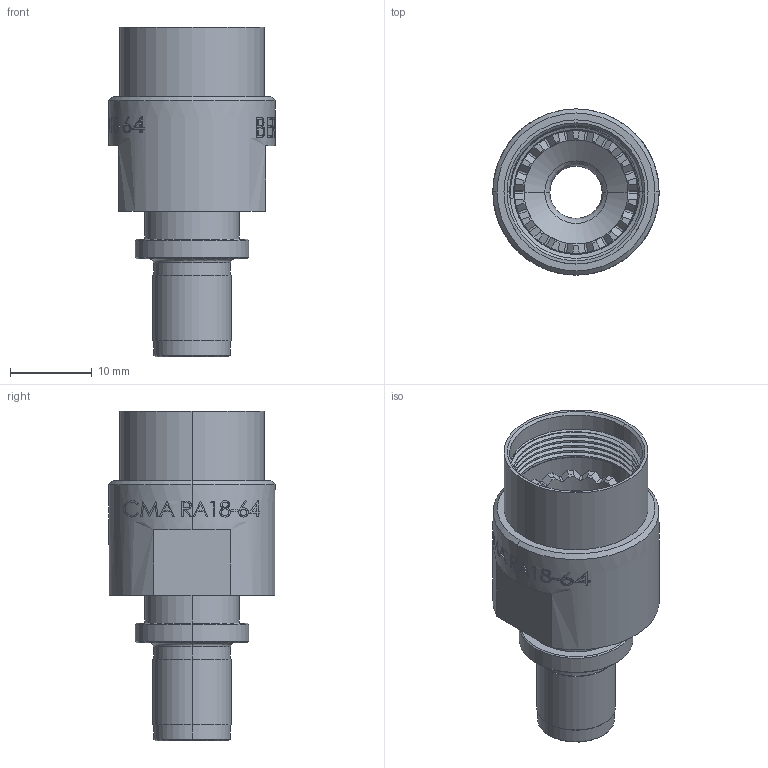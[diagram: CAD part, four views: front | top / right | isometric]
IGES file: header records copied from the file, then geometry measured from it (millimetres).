
Start section: SolidWorks IGES file using analytic representation for surfaces
Global section: file name: C:\Users\JGC\Desktop\CMA RA18-641.IGS; native system: SolidWorks 2017; preprocessor: SolidWorks 2017; author: jgc; date: 190307.095628; units: millimetre
Bounding box: 20.3 x 20.3 x 40.3 mm (x, y, z)
Volume: 4176.5 mm3; surface area: 4115.5 mm2
Topology: 1 solids, 1 shells, 405 faces, 1072 edges, 702 vertices
Faces by surface type: plane 211, revolution 128, bspline 66
